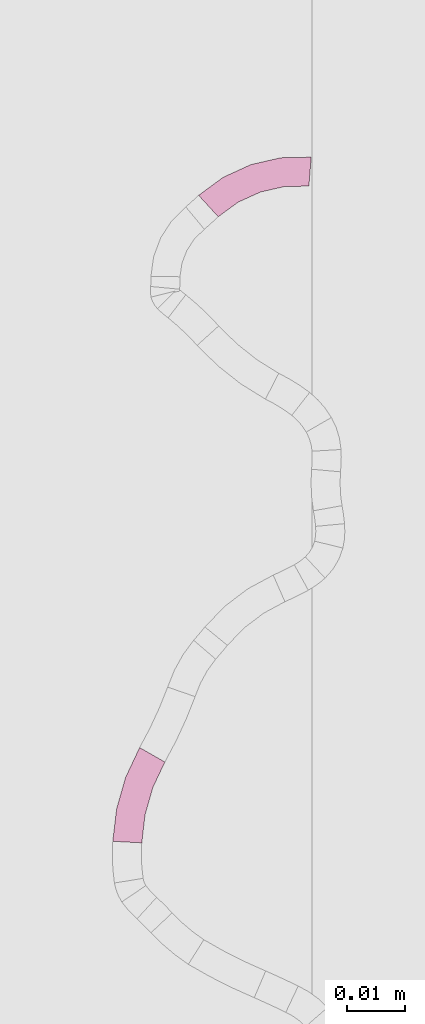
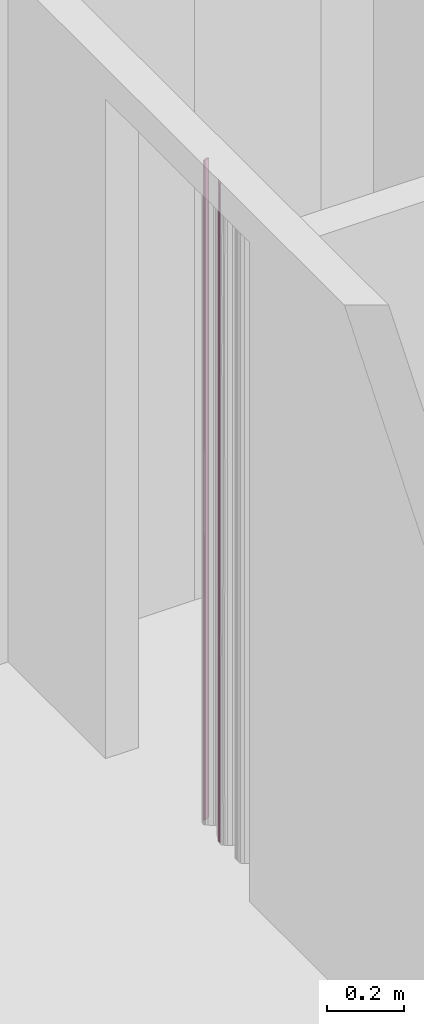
# One storey, part 226 of 418: 2 furnishings.
"""IFC2X3 building model written with IfcOpenShell, lengths in millimetres."""

from ifc_helpers import new_model, entity, si_unit, converted_unit, derived_unit, money_unit, point, direction, frame, frame_2d, origin_with_axes, place, context, subcontext, project, spatial, polyline, circle_curve, parameter, trimmed, segment, composite_curve, outline, extrude, material, type_object, element, save


model = new_model("IFC2X3")

# Units and contexts
model_context = context("Model", 3, precision=0.01, world=origin_with_axes(), true_north=direction((0.0, 1.0)))
body_context = subcontext(model_context, "Body", "Model", "MODEL_VIEW")
ifc_project = project(units=[si_unit("LENGTHUNIT", "METRE", prefix="MILLI"), si_unit("AREAUNIT", "SQUARE_METRE"), si_unit("VOLUMEUNIT", "CUBIC_METRE"), converted_unit("PLANEANGLEUNIT", "DEGREE", entity("IfcPlaneAngleMeasure", 0.0174532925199), si_unit("PLANEANGLEUNIT", "RADIAN"), dimensions=[0, 0, 0, 0, 0, 0, 0]), si_unit("SOLIDANGLEUNIT", "STERADIAN"), money_unit("EUR"), converted_unit("TIMEUNIT", "Year", entity("IfcTimeMeasure", 31556926.0), si_unit("TIMEUNIT", "SECOND"), dimensions=[0, 0, 1, 0, 0, 0, 0]), si_unit("MASSUNIT", "GRAM", prefix="KILO"), si_unit("THERMODYNAMICTEMPERATUREUNIT", "DEGREE_CELSIUS"), si_unit("LUMINOUSINTENSITYUNIT", "LUMEN"), si_unit("ENERGYUNIT", "JOULE", prefix="MEGA"), derived_unit("THERMALCONDUCTANCEUNIT", [(si_unit("POWERUNIT", "WATT"), 1), (si_unit("LENGTHUNIT", "METRE"), -1), (si_unit("THERMODYNAMICTEMPERATUREUNIT", "KELVIN"), -1)]), derived_unit("SPECIFICHEATCAPACITYUNIT", [(si_unit("ENERGYUNIT", "JOULE"), 1), (si_unit("MASSUNIT", "GRAM", prefix="KILO"), -1), (si_unit("THERMODYNAMICTEMPERATUREUNIT", "KELVIN"), -1)]), derived_unit("MASSDENSITYUNIT", [(si_unit("MASSUNIT", "GRAM", prefix="KILO"), 1), (si_unit("VOLUMEUNIT", "CUBIC_METRE"), -1)])], contexts=[model_context])

# Site, building, storey
site_placement = place(None, origin_with_axes())
site = spatial("IfcSite", under=ifc_project, at=site_placement, Name="Paldiski mnt 245/1, Tallinn, Harjumaa", CompositionType="COMPLEX")
building_placement = place(site_placement, origin_with_axes())
building = spatial("IfcBuilding", under=site, at=building_placement, Name="RKAS Hoone üldnimetus (kasutust iseloomustav) -> IFC Project Manager -> SOLIBRI", CompositionType="ELEMENT")
storey_placement = place(building_placement, origin_with_axes())
storey = spatial("IfcBuildingStorey", under=building, at=storey_placement, Name="Esimene korrus", CompositionType="ELEMENT", Elevation=0.0)

# Furnishings
ifc_material = material(Name="KON-00_GENEERILINE - KONSTRUKTSIOON")
furniture_type = type_object("IfcFurnitureType", Name="KON-00_GENEERILINE - KONSTRUKTSIOON 5", AssemblyPlace="NOTDEFINED")
furnishing_1_placement = place(storey_placement, frame((-45022.5292819, -980.415676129, 0.0), z_axis=(0.0, 0.0, 1.0), x_axis=(-0.996690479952, 0.0812901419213, 0.0)))
element("IfcFurnishingElement", 1, at=furnishing_1_placement, inside=storey, type_object=furniture_type, material=ifc_material, Name="SS-64", context=body_context, shape_type="SweptSolid", body=[
    extrude(outline(composite_curve([segment(trimmed(circle_curve(frame_2d((0.0, 25.7851639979), x_axis=(0.0, -1.0)), 25.7851639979), [point((0.0, 0.0)), parameter(0.0)], [point((18.7932814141, 8.13049730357)), parameter(46.7893080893)], True, "CARTESIAN"), True, "CONTINUOUS"), segment(polyline([(18.7932814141, 8.13049730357), (15.1221857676, 11.5253414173)]), True, "CONTINUOUS"), segment(trimmed(circle_curve(frame_2d((0.0, 25.7851639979), x_axis=(0.0, -1.0)), 20.7851639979), [point((15.1221857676, 11.5253414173)), parameter(46.6811509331)], [point((0.0, 5.0)), parameter(0.0)], False, "CARTESIAN"), True, "CONTINUOUS"), segment(polyline([(0.0, 5.0), (0.0, 0.0)]), True, "CONTINUOUS")], self_intersect=False)), origin_with_axes(), (0.0, 0.0, 1.0), 2100.0),
])
furnishing_2_placement = place(storey_placement, frame((-45052.0677522, -1082.05771934, 0.0), z_axis=(0.0, 0.0, 1.0), x_axis=(-0.498061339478, -0.867141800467, 0.0)))
element("IfcFurnishingElement", 2, at=furnishing_2_placement, inside=storey, type_object=furniture_type, material=ifc_material, Name="SS-87", context=body_context, shape_type="SweptSolid", body=[
    extrude(outline(composite_curve([segment(trimmed(circle_curve(frame_2d((0.0, 34.9997788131), x_axis=(0.0, -1.0)), 34.9997788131), [point((0.0, 0.0)), parameter(0.0)], [point((16.2932324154, 4.02373816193)), parameter(27.7441311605)], True, "CARTESIAN"), True, "CONTINUOUS"), segment(polyline([(16.2932324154, 4.02373816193), (14.032278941, 8.48408767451)]), True, "CONTINUOUS"), segment(trimmed(circle_curve(frame_2d((0.0, 34.9997788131), x_axis=(-0.000560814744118, -0.999999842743)), 29.9997788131), [point((14.032278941, 8.48408767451)), parameter(27.920221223)], [point((-0.0168243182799, 5.00000471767)), parameter(0.0)], False, "CARTESIAN"), True, "CONTINUOUS"), segment(polyline([(-0.0168243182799, 5.00000471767), (0.0, 0.0)]), True, "CONTINUOUS")], self_intersect=False)), origin_with_axes(), (0.0, 0.0, 1.0), 2100.0),
])

save(model, "model.ifc")
